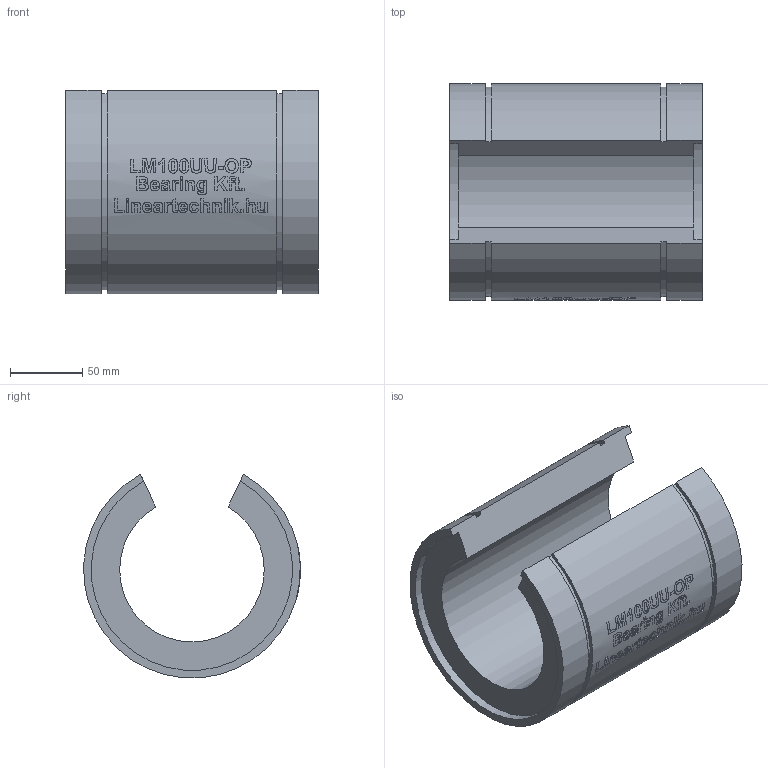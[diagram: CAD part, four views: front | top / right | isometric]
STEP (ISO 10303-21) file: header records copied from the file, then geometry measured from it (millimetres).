
FILE_DESCRIPTION(/* description */ (''),/* implementation_level */ '2;1');
FILE_NAME(/* name */ 'LM100UU-OP',/* time_stamp */ '2019-07-10T16:10:51+02:00',/* author */ ('VĂ©gh MĂˇtĂ©'),/* organization */ ('Bearing Kft'),/* preprocessor_version */ 'ST-DEVELOPER v16.7',/* originating_system */ 'DEX',/* authorisation */ $);
FILE_SCHEMA (('AUTOMOTIVE_DESIGN {1 0 10303 214 3 1 1}'));
Length unit declared in the file: millimetre
Products named in the file (1): LM100UU-OP
Bounding box: 175 x 149.9 x 140.74 mm (x, y, z)
Volume: 1358780.6 mm3; surface area: 145232.7 mm2
Topology: 1 solids, 1 shells, 326 faces, 816 edges, 544 vertices
Faces by surface type: plane 168, bspline 98, cylinder 60
Entity records: 23701 total; most frequent: CARTESIAN_POINT 16402, ORIENTED_EDGE 1618, DIRECTION 1224, EDGE_CURVE 809, VERTEX_POINT 544, LINE 454, VECTOR 454, EDGE_LOOP 385
